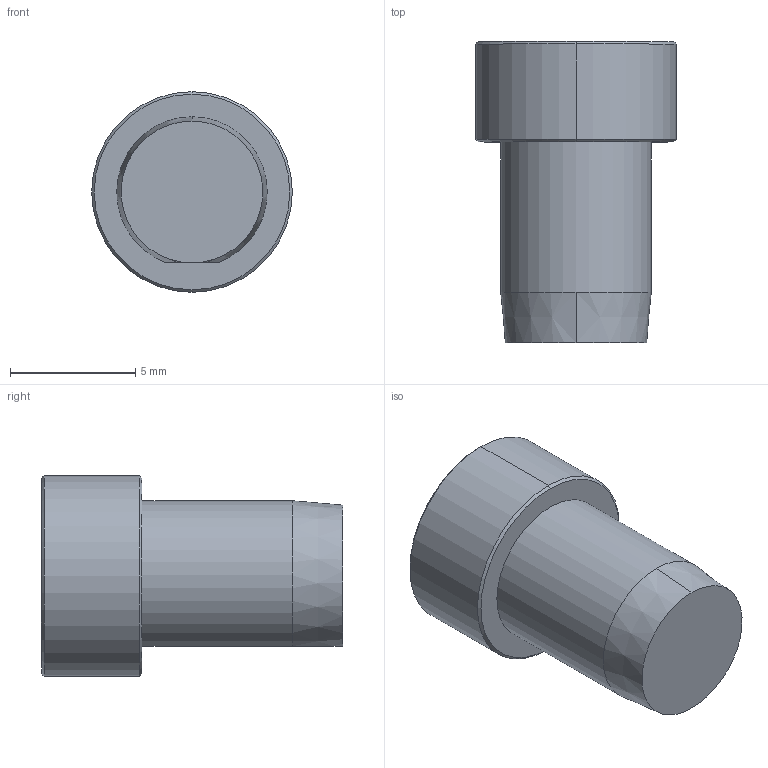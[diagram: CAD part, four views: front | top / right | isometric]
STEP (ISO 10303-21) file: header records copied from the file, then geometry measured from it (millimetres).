
FILE_DESCRIPTION (( 'STEP AP203' ), '1' );
FILE_NAME ('rmh.step', '2006-09-05T13:18:04', ( 'RLS' ), ( '' ), 'SwSTEP 1.0', 'SolidWorks 1999313', '' );
FILE_SCHEMA (( 'CONFIG_CONTROL_DESIGN' ));
Length unit declared in the file: metre
Products named in the file (1): 1
Bounding box: 8 x 12.01 x 8 mm (x, y, z)
Volume: 421.9 mm3; surface area: 345.2 mm2
Topology: 1 solids, 1 shells, 21 faces, 44 edges, 26 vertices
Faces by surface type: plane 10, cone 6, cylinder 5
Entity records: 608 total; most frequent: CARTESIAN_POINT 109, DIRECTION 102, ORIENTED_EDGE 88, EDGE_CURVE 44, AXIS2_PLACEMENT_3D 39, VERTEX_POINT 26, LINE 24, VECTOR 24
